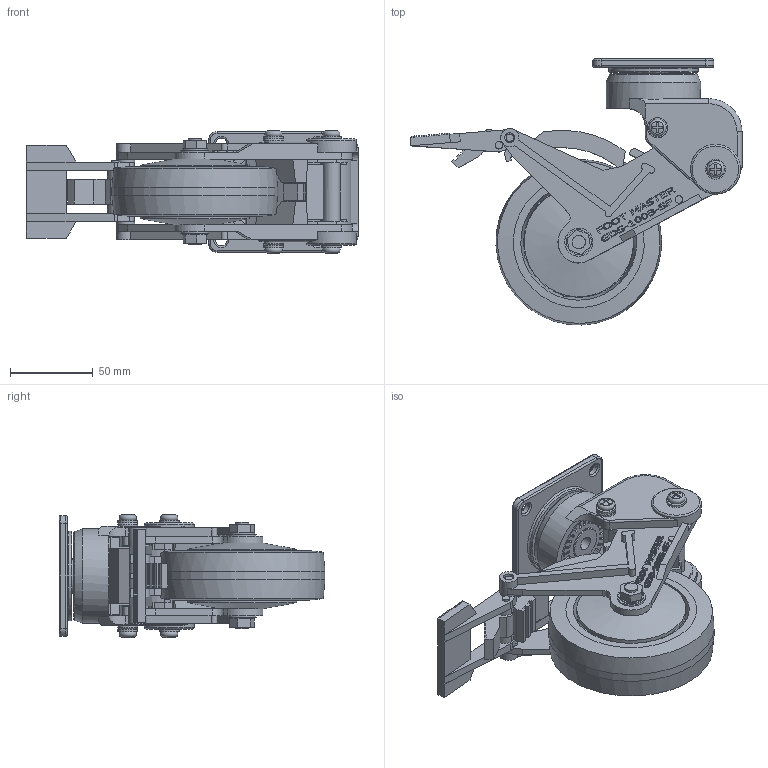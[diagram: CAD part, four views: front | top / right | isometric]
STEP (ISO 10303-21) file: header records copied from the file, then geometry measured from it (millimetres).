
FILE_DESCRIPTION((''),'2;1');
FILE_NAME('C:\Documents and Settings\Administrator\바탕 화면\3D STEP\GDS-SERIES\GDS-100\GDS-100-BSF.stp','2010-12-27T13:22:39',('Administrator'),(''),'Autodesk Inventor 2009','Autodesk Inventor 2009','');
FILE_SCHEMA(('AUTOMOTIVE_DESIGN { 1 0 10303 214 1 1 1 1 }'));
Length unit declared in the file: millimetre
Products named in the file (1): GDS-100-BSF
Bounding box: 200.33 x 160.49 x 74.74 mm (x, y, z)
Volume: 181912 mm3; surface area: 156174.7 mm2
Topology: 2 solids, 3 shells, 1247 faces, 3493 edges, 2301 vertices
Faces by surface type: plane 809, cylinder 175, bspline 171, cone 52, torus 40
Full cylindrical faces by diameter (mm): 2.9 x1, 3 x6, 4.5 x3, 6 x8, 7 x4, 8 x5, 8.4 x3, 10 x2, 10.1 x2, 10.2 x2, 10.7 x1, 10.931 x2, 11 x2, 12 x2, 13 x6, 15 x2, 17 x2, 19.8 x2, 20 x4, 22 x4, 25 x1, 25.5 x1, 27 x1, 30 x2, 39 x1, 39.4 x1, 40.2 x1, 40.4 x1, 54 x1, 57 x1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
Entity records: 42679 total; most frequent: CARTESIAN_POINT 12014, ORIENTED_EDGE 6574, DIRECTION 5819, EDGE_CURVE 3287, VERTEX_POINT 2234, VECTOR 2023, LINE 2023, AXIS2_PLACEMENT_3D 1898
